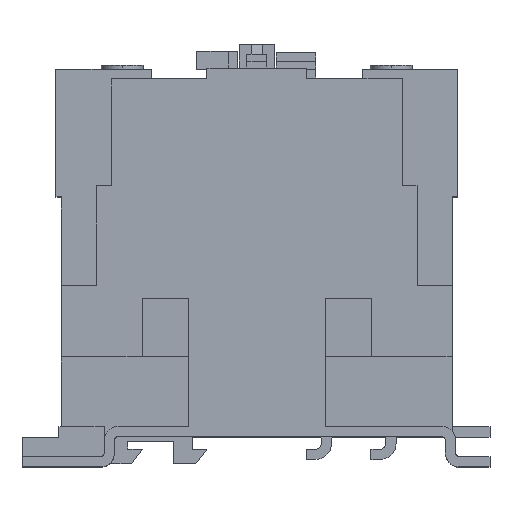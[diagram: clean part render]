
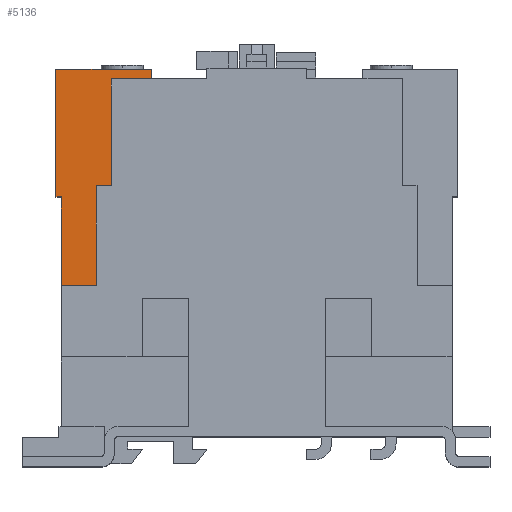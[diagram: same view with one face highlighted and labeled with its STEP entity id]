
A CAD part, top view. The second image highlights one B-rep face of the part: STEP entity #5136.
In plain terms, the highlighted planar face has unit normal (0, 0, 1).
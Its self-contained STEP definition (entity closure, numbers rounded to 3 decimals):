
#2052 = VERTEX_POINT ( 'NONE', #13032 ) ;
#2067 = VERTEX_POINT ( 'NONE', #13047 ) ;
#2110 = VERTEX_POINT ( 'NONE', #13090 ) ;
#2114 = VERTEX_POINT ( 'NONE', #13094 ) ;
#2304 = VERTEX_POINT ( 'NONE', #13284 ) ;
#2308 = VERTEX_POINT ( 'NONE', #13288 ) ;
#2354 = VERTEX_POINT ( 'NONE', #13334 ) ;
#2379 = VERTEX_POINT ( 'NONE', #13359 ) ;
#2430 = VERTEX_POINT ( 'NONE', #13410 ) ;
#2431 = VERTEX_POINT ( 'NONE', #13411 ) ;
#3514 = EDGE_CURVE ( 'NONE', #2114, #2110, #14526, .T. ) ;
#3706 = EDGE_CURVE ( 'NONE', #2304, #2114, #14854, .T. ) ;
#3709 = EDGE_CURVE ( 'NONE', #2308, #2304, #14858, .T. ) ;
#4829 = EDGE_LOOP ( 'NONE', ( #6918, #6919, #6920, #6921, #6922, #6923, #6924, #6925, #6926, #6927 ) ) ;
#5136 = ADVANCED_FACE ( 'NONE', ( #15232 ), #17209, .F. ) ;
#6180 = EDGE_CURVE ( 'NONE', #2052, #2067, #18691, .T. ) ;
#6260 = EDGE_CURVE ( 'NONE', #2067, #2354, #18835, .T. ) ;
#6287 = EDGE_CURVE ( 'NONE', #2308, #2379, #18888, .T. ) ;
#6363 = EDGE_CURVE ( 'NONE', #2379, #2354, #19028, .T. ) ;
#6364 = EDGE_CURVE ( 'NONE', #2110, #2430, #19029, .T. ) ;
#6365 = EDGE_CURVE ( 'NONE', #2430, #2431, #19031, .T. ) ;
#6366 = EDGE_CURVE ( 'NONE', #2431, #2052, #19033, .T. ) ;
#6918 = ORIENTED_EDGE ( 'NONE', *, *, #6180, .T. ) ;
#6919 = ORIENTED_EDGE ( 'NONE', *, *, #6260, .T. ) ;
#6920 = ORIENTED_EDGE ( 'NONE', *, *, #6363, .F. ) ;
#6921 = ORIENTED_EDGE ( 'NONE', *, *, #6287, .F. ) ;
#6922 = ORIENTED_EDGE ( 'NONE', *, *, #3709, .T. ) ;
#6923 = ORIENTED_EDGE ( 'NONE', *, *, #3706, .T. ) ;
#6924 = ORIENTED_EDGE ( 'NONE', *, *, #3514, .T. ) ;
#6925 = ORIENTED_EDGE ( 'NONE', *, *, #6364, .T. ) ;
#6926 = ORIENTED_EDGE ( 'NONE', *, *, #6365, .T. ) ;
#6927 = ORIENTED_EDGE ( 'NONE', *, *, #6366, .T. ) ;
#13032 = CARTESIAN_POINT ( 'NONE',  ( -38.1, 65.3, 63.6 ) ) ;
#13047 = CARTESIAN_POINT ( 'NONE',  ( -37.341, 94.3, 63.6 ) ) ;
#13090 = CARTESIAN_POINT ( 'NONE',  ( -53., 38.3, 63.6 ) ) ;
#13094 = CARTESIAN_POINT ( 'NONE',  ( -53., 62.3, 63.6 ) ) ;
#13284 = CARTESIAN_POINT ( 'NONE',  ( -54.5, 62.3, 63.6 ) ) ;
#13288 = CARTESIAN_POINT ( 'NONE',  ( -54.5, 97., 63.6 ) ) ;
#13334 = CARTESIAN_POINT ( 'NONE',  ( -28.65, 94.3, 63.6 ) ) ;
#13359 = CARTESIAN_POINT ( 'NONE',  ( -28.65, 97., 63.6 ) ) ;
#13410 = CARTESIAN_POINT ( 'NONE',  ( -43.5, 38.3, 63.6 ) ) ;
#13411 = CARTESIAN_POINT ( 'NONE',  ( -43.5, 65.3, 63.6 ) ) ;
#14287 = AXIS2_PLACEMENT_3D ( 'NONE', #17210, #17215, #17216 ) ;
#14526 = LINE ( 'NONE', #15796, #14531 ) ;
#14531 = VECTOR ( 'NONE', #15804, 1000. ) ;
#14854 = LINE ( 'NONE', #16311, #14857 ) ;
#14857 = VECTOR ( 'NONE', #16312, 1000. ) ;
#14858 = LINE ( 'NONE', #16309, #14863 ) ;
#14863 = VECTOR ( 'NONE', #16317, 1000. ) ;
#15232 = FACE_OUTER_BOUND ( 'NONE', #4829, .T. ) ;
#15796 = CARTESIAN_POINT ( 'NONE',  ( -53., 38.3, 63.6 ) ) ;
#15804 = DIRECTION ( 'NONE',  ( 0., -1., 0. ) ) ;
#16309 = CARTESIAN_POINT ( 'NONE',  ( -54.5, 97., 63.6 ) ) ;
#16311 = CARTESIAN_POINT ( 'NONE',  ( -53., 62.3, 63.6 ) ) ;
#16312 = DIRECTION ( 'NONE',  ( 1., 0., 0. ) ) ;
#16317 = DIRECTION ( 'NONE',  ( 0., -1., 0. ) ) ;
#17209 = PLANE ( 'NONE',  #14287 ) ;
#17210 = CARTESIAN_POINT ( 'NONE',  ( -54.5, 97., 63.6 ) ) ;
#17215 = DIRECTION ( 'NONE',  ( 0., 0., -1. ) ) ;
#17216 = DIRECTION ( 'NONE',  ( -1., 0., 0. ) ) ;
#18691 = LINE ( 'NONE', #20128, #18694 ) ;
#18694 = VECTOR ( 'NONE', #20129, 1000. ) ;
#18835 = LINE ( 'NONE', #20294, #18842 ) ;
#18842 = VECTOR ( 'NONE', #20303, 1000. ) ;
#18888 = LINE ( 'NONE', #20486, #18891 ) ;
#18891 = VECTOR ( 'NONE', #20487, 1000. ) ;
#19028 = LINE ( 'NONE', #20644, #19030 ) ;
#19029 = LINE ( 'NONE', #20653, #19032 ) ;
#19030 = VECTOR ( 'NONE', #20642, 1000. ) ;
#19031 = LINE ( 'NONE', #20655, #19034 ) ;
#19032 = VECTOR ( 'NONE', #20654, 1000. ) ;
#19033 = LINE ( 'NONE', #20657, #19036 ) ;
#19034 = VECTOR ( 'NONE', #20656, 1000. ) ;
#19036 = VECTOR ( 'NONE', #20658, 1000. ) ;
#20128 = CARTESIAN_POINT ( 'NONE',  ( -38.1, 65.3, 63.6 ) ) ;
#20129 = DIRECTION ( 'NONE',  ( 0.026, 1., 0. ) ) ;
#20294 = CARTESIAN_POINT ( 'NONE',  ( -54.5, 94.3, 63.6 ) ) ;
#20303 = DIRECTION ( 'NONE',  ( 1., 0., 0. ) ) ;
#20486 = CARTESIAN_POINT ( 'NONE',  ( -54.5, 97., 63.6 ) ) ;
#20487 = DIRECTION ( 'NONE',  ( 1., 0., 0. ) ) ;
#20642 = DIRECTION ( 'NONE',  ( 0., -1., 0. ) ) ;
#20644 = CARTESIAN_POINT ( 'NONE',  ( -28.65, 97., 63.6 ) ) ;
#20653 = CARTESIAN_POINT ( 'NONE',  ( -43.5, 38.3, 63.6 ) ) ;
#20654 = DIRECTION ( 'NONE',  ( 1., 0., 0. ) ) ;
#20655 = CARTESIAN_POINT ( 'NONE',  ( -43.5, 65.3, 63.6 ) ) ;
#20656 = DIRECTION ( 'NONE',  ( 0., 1., 0. ) ) ;
#20657 = CARTESIAN_POINT ( 'NONE',  ( -39.5, 65.3, 63.6 ) ) ;
#20658 = DIRECTION ( 'NONE',  ( 1., 0., 0. ) ) ;
